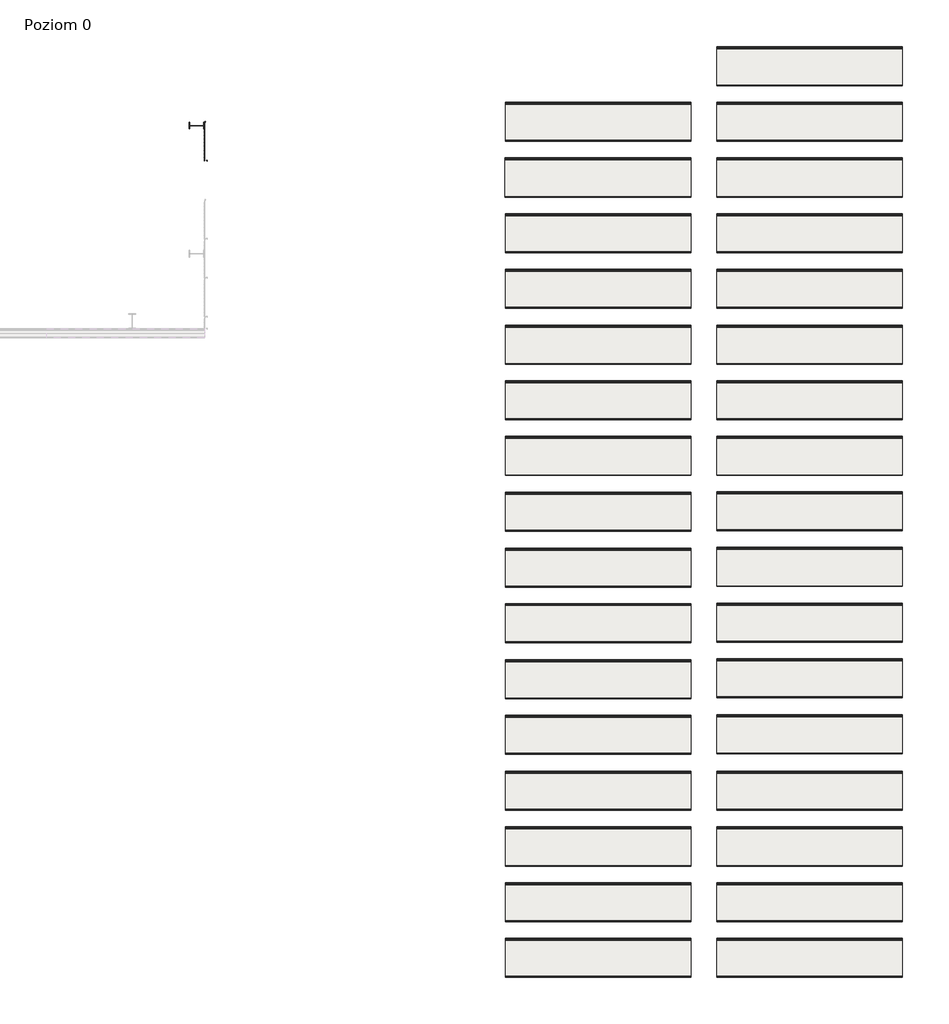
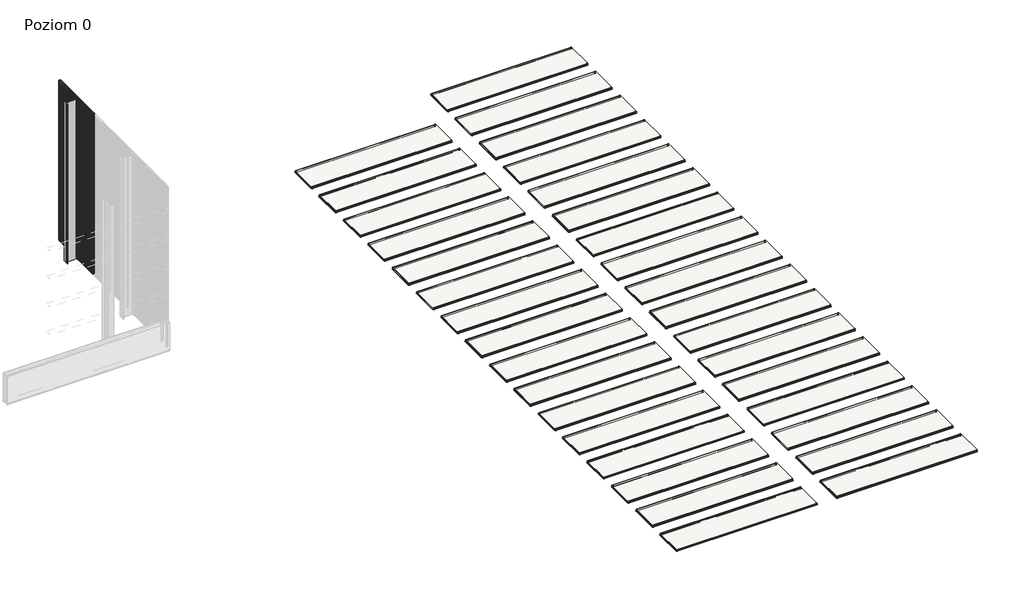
# One storey, part 2 of 2: 35 coverings, 1 column.
"""IFC4 building model written with IfcOpenShell, lengths in millimetres."""

from ifc_helpers import new_model, si_unit, origin, place, context, project, spatial, transform, mapped, element, save
from components import standard1_standard_8d04f7a0, covering_1de69429, covering_002f4c35

model = new_model("IFC4")

# Units and contexts
model_context = context("Model", 3, world=origin())
ifc_project = project(units=[si_unit("LENGTHUNIT", "METRE", prefix="MILLI")], contexts=[model_context])

# Site, building, storey
site = spatial("IfcSite", under=ifc_project)
building = spatial("IfcBuilding", under=site)
storey = spatial("IfcBuildingStorey", under=building, Name="Poziom 0", Elevation=0.0)

# Column
placement = place(None, origin())
standard1_standard_shape = standard1_standard_8d04f7a0(model_context)
element("IfcColumn", 1, ObjectType="Standard1 : Standard", at=placement, inside=storey, context=model_context, shape_type="MappedRepresentation", body=[
    mapped(standard1_standard_shape, transform((-652.7962443, -4043.6992704, 0.0), x_axis=(0.0, 1.0, 0.0), y_axis=(-1.0, 0.0, 0.0), z_axis=(0.0, 0.0, 1.0))),
])

# Coverings
covering_shape = covering_1de69429(model_context)
element("IfcCovering", 2, ObjectType="Wall sandwich panel SPW-H CORE WOOL (single sheet) : -", at=placement, inside=storey, context=model_context, shape_type="MappedRepresentation", body=[
    mapped(covering_shape, transform((-366.8962443, -2858.6992702, 6000.0), x_axis=(0.0, 1.0, 0.0), y_axis=(0.0, 0.0, 1.0), z_axis=(1.0, 0.0, 0.0))),
])
element("IfcCovering", 3, ObjectType="Wall sandwich panel SPW-H CORE WOOL (single sheet) : -", at=placement, inside=storey, context=model_context, shape_type="MappedRepresentation", body=[
    mapped(covering_shape, transform((-366.8962443, -3908.6992704, 6000.0), x_axis=(0.0, 1.0, 0.0), y_axis=(0.0, 0.0, 1.0), z_axis=(1.0, 0.0, 0.0))),
])
covering_2_shape = covering_002f4c35(model_context)
element("IfcCovering", 4, ObjectType="Wall sandwich panel SPW-H CORE WOOL (single sheet) : -", at=placement, inside=storey, context=model_context, shape_type="MappedRepresentation", body=[
    mapped(covering_2_shape, transform((12661.4641213, -4480.5974484, 100.0), x_axis=(0.0, -1.0, 0.0), y_axis=(1.0, 0.0, 0.0), z_axis=(0.0, 0.0, 1.0))),
])
element("IfcCovering", 5, ObjectType="Wall sandwich panel SPW-H CORE WOOL (single sheet) : -", at=placement, inside=storey, context=model_context, shape_type="MappedRepresentation", body=[
    mapped(covering_2_shape, transform((12656.9489348, -5980.5974484, 100.0), x_axis=(0.0, -1.0, 0.0), y_axis=(1.0, 0.0, 0.0), z_axis=(0.0, 0.0, 1.0))),
])
element("IfcCovering", 6, ObjectType="Wall sandwich panel SPW-H CORE WOOL (single sheet) : -", at=placement, inside=storey, context=model_context, shape_type="MappedRepresentation", body=[
    mapped(covering_2_shape, transform((12661.4641213, -7480.5974484, 100.0), x_axis=(0.0, -1.0, 0.0), y_axis=(1.0, 0.0, 0.0), z_axis=(0.0, 0.0, 1.0))),
])
element("IfcCovering", 7, ObjectType="Wall sandwich panel SPW-H CORE WOOL (single sheet) : -", at=placement, inside=storey, context=model_context, shape_type="MappedRepresentation", body=[
    mapped(covering_2_shape, transform((12661.4641213, -8980.5974484, 100.0), x_axis=(0.0, -1.0, 0.0), y_axis=(1.0, 0.0, 0.0), z_axis=(0.0, 0.0, 1.0))),
])
element("IfcCovering", 8, ObjectType="Wall sandwich panel SPW-H CORE WOOL (single sheet) : -", at=placement, inside=storey, context=model_context, shape_type="MappedRepresentation", body=[
    mapped(covering_2_shape, transform((12661.4641213, -10480.5974484, 100.0), x_axis=(0.0, -1.0, 0.0), y_axis=(1.0, 0.0, 0.0), z_axis=(0.0, 0.0, 1.0))),
])
element("IfcCovering", 9, ObjectType="Wall sandwich panel SPW-H CORE WOOL (single sheet) : -", at=placement, inside=storey, context=model_context, shape_type="MappedRepresentation", body=[
    mapped(covering_2_shape, transform((12661.4641213, -11980.5974484, 100.0), x_axis=(0.0, -1.0, 0.0), y_axis=(1.0, 0.0, 0.0), z_axis=(0.0, 0.0, 1.0))),
])
element("IfcCovering", 10, ObjectType="Wall sandwich panel SPW-H CORE WOOL (single sheet) : -", at=placement, inside=storey, context=model_context, shape_type="MappedRepresentation", body=[
    mapped(covering_2_shape, transform((12661.4641213, -13480.5974484, 100.0), x_axis=(0.0, -1.0, 0.0), y_axis=(1.0, 0.0, 0.0), z_axis=(0.0, 0.0, 1.0))),
])
element("IfcCovering", 11, ObjectType="Wall sandwich panel SPW-H CORE WOOL (single sheet) : -", at=placement, inside=storey, context=model_context, shape_type="MappedRepresentation", body=[
    mapped(covering_2_shape, transform((12661.4641213, -14980.5974484, 100.0), x_axis=(0.0, -1.0, 0.0), y_axis=(1.0, 0.0, 0.0), z_axis=(0.0, 0.0, 1.0))),
])
element("IfcCovering", 12, ObjectType="Wall sandwich panel SPW-H CORE WOOL (single sheet) : -", at=placement, inside=storey, context=model_context, shape_type="MappedRepresentation", body=[
    mapped(covering_2_shape, transform((12661.4641213, -16490.082932, 100.0), x_axis=(0.0, -1.0, 0.0), y_axis=(1.0, 0.0, 0.0), z_axis=(0.0, 0.0, 1.0))),
])
element("IfcCovering", 13, ObjectType="Wall sandwich panel SPW-H CORE WOOL (single sheet) : -", at=placement, inside=storey, context=model_context, shape_type="MappedRepresentation", body=[
    mapped(covering_2_shape, transform((12661.4641213, -17990.082932, 100.0), x_axis=(0.0, -1.0, 0.0), y_axis=(1.0, 0.0, 0.0), z_axis=(0.0, 0.0, 1.0))),
])
element("IfcCovering", 14, ObjectType="Wall sandwich panel SPW-H CORE WOOL (single sheet) : -", at=placement, inside=storey, context=model_context, shape_type="MappedRepresentation", body=[
    mapped(covering_2_shape, transform((12661.4641213, -19490.082932, 100.0), x_axis=(0.0, -1.0, 0.0), y_axis=(1.0, 0.0, 0.0), z_axis=(0.0, 0.0, 1.0))),
])
element("IfcCovering", 15, ObjectType="Wall sandwich panel SPW-H CORE WOOL (single sheet) : -", at=placement, inside=storey, context=model_context, shape_type="MappedRepresentation", body=[
    mapped(covering_2_shape, transform((12661.4641213, -20990.082932, 100.0), x_axis=(0.0, -1.0, 0.0), y_axis=(1.0, 0.0, 0.0), z_axis=(0.0, 0.0, 1.0))),
])
element("IfcCovering", 16, ObjectType="Wall sandwich panel SPW-H CORE WOOL (single sheet) : -", at=placement, inside=storey, context=model_context, shape_type="MappedRepresentation", body=[
    mapped(covering_2_shape, transform((12661.4641213, -22499.5684156, 100.0), x_axis=(0.0, -1.0, 0.0), y_axis=(1.0, 0.0, 0.0), z_axis=(0.0, 0.0, 1.0))),
])
element("IfcCovering", 17, ObjectType="Wall sandwich panel SPW-H CORE WOOL (single sheet) : -", at=placement, inside=storey, context=model_context, shape_type="MappedRepresentation", body=[
    mapped(covering_2_shape, transform((12661.4641213, -23999.5684156, 100.0), x_axis=(0.0, -1.0, 0.0), y_axis=(1.0, 0.0, 0.0), z_axis=(0.0, 0.0, 1.0))),
])
element("IfcCovering", 18, ObjectType="Wall sandwich panel SPW-H CORE WOOL (single sheet) : -", at=placement, inside=storey, context=model_context, shape_type="MappedRepresentation", body=[
    mapped(covering_2_shape, transform((12661.4641213, -25499.5684156, 100.0), x_axis=(0.0, -1.0, 0.0), y_axis=(1.0, 0.0, 0.0), z_axis=(0.0, 0.0, 1.0))),
])
element("IfcCovering", 19, ObjectType="Wall sandwich panel SPW-H CORE WOOL (single sheet) : -", at=placement, inside=storey, context=model_context, shape_type="MappedRepresentation", body=[
    mapped(covering_2_shape, transform((12661.4641213, -26999.5684156, 100.0), x_axis=(0.0, -1.0, 0.0), y_axis=(1.0, 0.0, 0.0), z_axis=(0.0, 0.0, 1.0))),
])
element("IfcCovering", 20, ObjectType="Wall sandwich panel SPW-H CORE WOOL (single sheet) : -", at=placement, inside=storey, context=model_context, shape_type="MappedRepresentation", body=[
    mapped(covering_2_shape, transform((18361.4641213, -4480.5974484, 100.0), x_axis=(0.0, -1.0, 0.0), y_axis=(1.0, 0.0, 0.0), z_axis=(0.0, 0.0, 1.0))),
])
element("IfcCovering", 21, ObjectType="Wall sandwich panel SPW-H CORE WOOL (single sheet) : -", at=placement, inside=storey, context=model_context, shape_type="MappedRepresentation", body=[
    mapped(covering_2_shape, transform((18361.4641213, -5980.5974484, 100.0), x_axis=(0.0, -1.0, 0.0), y_axis=(1.0, 0.0, 0.0), z_axis=(0.0, 0.0, 1.0))),
])
element("IfcCovering", 22, ObjectType="Wall sandwich panel SPW-H CORE WOOL (single sheet) : -", at=placement, inside=storey, context=model_context, shape_type="MappedRepresentation", body=[
    mapped(covering_2_shape, transform((18361.4641213, -7480.5974484, 100.0), x_axis=(0.0, -1.0, 0.0), y_axis=(1.0, 0.0, 0.0), z_axis=(0.0, 0.0, 1.0))),
])
element("IfcCovering", 23, ObjectType="Wall sandwich panel SPW-H CORE WOOL (single sheet) : -", at=placement, inside=storey, context=model_context, shape_type="MappedRepresentation", body=[
    mapped(covering_2_shape, transform((18361.4641213, -8980.5974484, 100.0), x_axis=(0.0, -1.0, 0.0), y_axis=(1.0, 0.0, 0.0), z_axis=(0.0, 0.0, 1.0))),
])
element("IfcCovering", 24, ObjectType="Wall sandwich panel SPW-H CORE WOOL (single sheet) : -", at=placement, inside=storey, context=model_context, shape_type="MappedRepresentation", body=[
    mapped(covering_2_shape, transform((18361.4641213, -10480.5974484, 100.0), x_axis=(0.0, -1.0, 0.0), y_axis=(1.0, 0.0, 0.0), z_axis=(0.0, 0.0, 1.0))),
])
element("IfcCovering", 25, ObjectType="Wall sandwich panel SPW-H CORE WOOL (single sheet) : -", at=placement, inside=storey, context=model_context, shape_type="MappedRepresentation", body=[
    mapped(covering_2_shape, transform((18361.4641213, -11980.5974484, 100.0), x_axis=(0.0, -1.0, 0.0), y_axis=(1.0, 0.0, 0.0), z_axis=(0.0, 0.0, 1.0))),
])
element("IfcCovering", 26, ObjectType="Wall sandwich panel SPW-H CORE WOOL (single sheet) : -", at=placement, inside=storey, context=model_context, shape_type="MappedRepresentation", body=[
    mapped(covering_2_shape, transform((18361.4641213, -13480.5974484, 100.0), x_axis=(0.0, -1.0, 0.0), y_axis=(1.0, 0.0, 0.0), z_axis=(0.0, 0.0, 1.0))),
])
element("IfcCovering", 27, ObjectType="Wall sandwich panel SPW-H CORE WOOL (single sheet) : -", at=placement, inside=storey, context=model_context, shape_type="MappedRepresentation", body=[
    mapped(covering_2_shape, transform((18361.4641213, -14970.1735216, 100.0), x_axis=(0.0, -1.0, 0.0), y_axis=(1.0, 0.0, 0.0), z_axis=(0.0, 0.0, 1.0))),
])
element("IfcCovering", 28, ObjectType="Wall sandwich panel SPW-H CORE WOOL (single sheet) : -", at=placement, inside=storey, context=model_context, shape_type="MappedRepresentation", body=[
    mapped(covering_2_shape, transform((18361.4641213, -16470.1735216, 100.0), x_axis=(0.0, -1.0, 0.0), y_axis=(1.0, 0.0, 0.0), z_axis=(0.0, 0.0, 1.0))),
])
element("IfcCovering", 29, ObjectType="Wall sandwich panel SPW-H CORE WOOL (single sheet) : -", at=placement, inside=storey, context=model_context, shape_type="MappedRepresentation", body=[
    mapped(covering_2_shape, transform((18361.4641213, -17970.1735216, 100.0), x_axis=(0.0, -1.0, 0.0), y_axis=(1.0, 0.0, 0.0), z_axis=(0.0, 0.0, 1.0))),
])
element("IfcCovering", 30, ObjectType="Wall sandwich panel SPW-H CORE WOOL (single sheet) : -", at=placement, inside=storey, context=model_context, shape_type="MappedRepresentation", body=[
    mapped(covering_2_shape, transform((18361.4641213, -19470.1735216, 100.0), x_axis=(0.0, -1.0, 0.0), y_axis=(1.0, 0.0, 0.0), z_axis=(0.0, 0.0, 1.0))),
])
element("IfcCovering", 31, ObjectType="Wall sandwich panel SPW-H CORE WOOL (single sheet) : -", at=placement, inside=storey, context=model_context, shape_type="MappedRepresentation", body=[
    mapped(covering_2_shape, transform((18361.4641213, -22499.5684156, 100.0), x_axis=(0.0, -1.0, 0.0), y_axis=(1.0, 0.0, 0.0), z_axis=(0.0, 0.0, 1.0))),
])
element("IfcCovering", 32, ObjectType="Wall sandwich panel SPW-H CORE WOOL (single sheet) : -", at=placement, inside=storey, context=model_context, shape_type="MappedRepresentation", body=[
    mapped(covering_2_shape, transform((18361.4641213, -23999.5684156, 100.0), x_axis=(0.0, -1.0, 0.0), y_axis=(1.0, 0.0, 0.0), z_axis=(0.0, 0.0, 1.0))),
])
element("IfcCovering", 33, ObjectType="Wall sandwich panel SPW-H CORE WOOL (single sheet) : -", at=placement, inside=storey, context=model_context, shape_type="MappedRepresentation", body=[
    mapped(covering_2_shape, transform((18361.4641213, -25499.5684156, 100.0), x_axis=(0.0, -1.0, 0.0), y_axis=(1.0, 0.0, 0.0), z_axis=(0.0, 0.0, 1.0))),
])
element("IfcCovering", 34, ObjectType="Wall sandwich panel SPW-H CORE WOOL (single sheet) : -", at=placement, inside=storey, context=model_context, shape_type="MappedRepresentation", body=[
    mapped(covering_2_shape, transform((18361.4641213, -26999.5684156, 100.0), x_axis=(0.0, -1.0, 0.0), y_axis=(1.0, 0.0, 0.0), z_axis=(0.0, 0.0, 1.0))),
])
element("IfcCovering", 35, ObjectType="Wall sandwich panel SPW-H CORE WOOL (single sheet) : -", at=placement, inside=storey, context=model_context, shape_type="MappedRepresentation", body=[
    mapped(covering_2_shape, transform((18361.4641213, -2980.5974484, 100.0), x_axis=(0.0, -1.0, 0.0), y_axis=(1.0, 0.0, 0.0), z_axis=(0.0, 0.0, 1.0))),
])
element("IfcCovering", 36, ObjectType="Wall sandwich panel SPW-H CORE WOOL (single sheet) : -", at=placement, inside=storey, context=model_context, shape_type="MappedRepresentation", body=[
    mapped(covering_2_shape, transform((18361.4641213, -20970.1735216, 100.0), x_axis=(0.0, -1.0, 0.0), y_axis=(1.0, 0.0, 0.0), z_axis=(0.0, 0.0, 1.0))),
])

save(model, "model.ifc")
